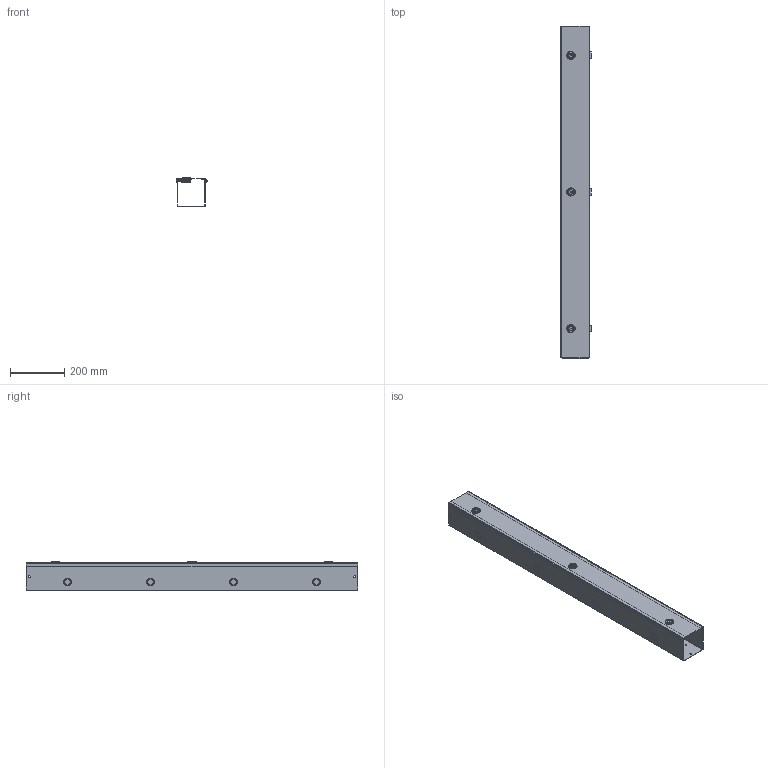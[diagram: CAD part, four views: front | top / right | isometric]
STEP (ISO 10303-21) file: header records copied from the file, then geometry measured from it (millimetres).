
FILE_DESCRIPTION(/* description */ ('1100SS 48" x 4" x 4" Assembly'),/* implementation_level */ '2;1');
FILE_NAME(/* name */ '1100SS4048.stp',/* time_stamp */ '2024-04-16T06:39:20-04:00',/* author */ ('BoxCad'),/* organization */ (''),/* preprocessor_version */ 'ST-DEVELOPER v20',/* originating_system */ 'Autodesk Inventor 2024',/* authorisation */ '');
FILE_SCHEMA (('AUTOMOTIVE_DESIGN { 1 0 10303 214 3 1 1 }'));
Products named in the file (12): 1100SS4048; 1100SS4048B; 1100SS4048B-P; 1100SS4048C; 1100SS4048C-P; STK-P-02400S; STK-Q-33361; STK-A-880SCQ1-SL-1; STK-A-880SCQ1-SL-2; STK-A-880SCQ1-SL-3; STK-Q-78631; STK-Q-78644
Assembly tree (18 placements, depth 4):
  1100SS4048
    1100SS4048B
      1100SS4048B-P
      STK-P-02400S
    1100SS4048C
      1100SS4048C-P
      STK-P-02400S
      STK-Q-33361  x3
      STK-A-880SCQ1-SL-1
        STK-Q-78631
        STK-Q-78644
      STK-A-880SCQ1-SL-2
        STK-Q-78631
        STK-Q-78644
      STK-A-880SCQ1-SL-3
        STK-Q-78631
        STK-Q-78644
Bounding box: 111.9 x 1219.2 x 107.6 mm (x, y, z)
Volume: 791586.5 mm3; surface area: 1135838 mm2
Topology: 11 solids, 11 shells, 5052 faces, 12907 edges, 7793 vertices
Faces by surface type: plane 1913, cylinder 1345, bspline 1239, torus 318, sphere 237
Full cylindrical faces by diameter (mm): 0.762 x3, 7.137 x10, 30 x3
Entity records: 63918 total; most frequent: CARTESIAN_POINT 18931, ORIENTED_EDGE 9728, DIRECTION 8521, EDGE_CURVE 4864, VERTEX_POINT 3015, AXIS2_PLACEMENT_3D 2881, LINE 2759, VECTOR 2759
